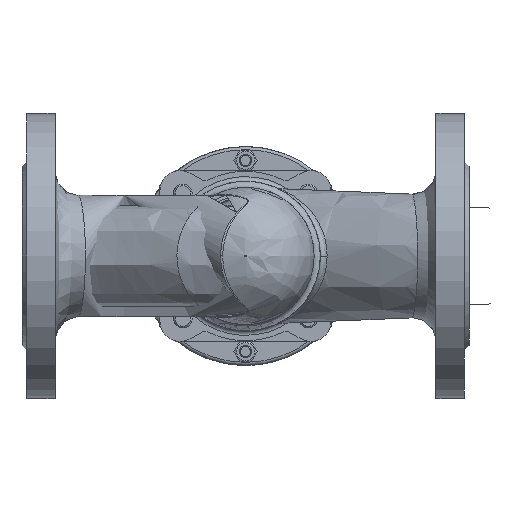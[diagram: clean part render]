
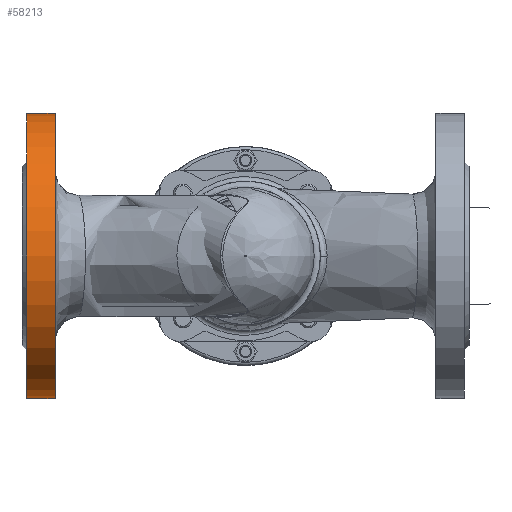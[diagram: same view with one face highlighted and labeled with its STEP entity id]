
A CAD part, front view. The second image highlights one B-rep face of the part: STEP entity #58213.
In plain terms, the highlighted cylindrical face has radius 92.5 mm (diameter 185 mm), a full revolution.
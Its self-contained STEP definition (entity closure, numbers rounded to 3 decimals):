
#58213=ADVANCED_FACE('',(#60590),#60592,.T.);
#60590=FACE_OUTER_BOUND('',#60591,.T.);
#60591=EDGE_LOOP('',(#65902,#65903,#65904,#65905));
#60592=CYLINDRICAL_SURFACE('',#60593,92.5);
#60593=AXIS2_PLACEMENT_3D('',#60594,#60595,#60596);
#60594=CARTESIAN_POINT('',(21.5,92.576,-92.5));
#60595=DIRECTION('',(-1.,0.,0.));
#60596=DIRECTION('',(0.,0.,-1.));
#65902=ORIENTED_EDGE('',*,*,#66472,.T.);
#65903=ORIENTED_EDGE('',*,*,#66473,.T.);
#65904=ORIENTED_EDGE('',*,*,#66474,.F.);
#65905=ORIENTED_EDGE('',*,*,#66473,.F.);
#66472=EDGE_CURVE('',#66822,#66822,#66823,.T.);
#66473=EDGE_CURVE('',#66822,#66824,#66825,.T.);
#66474=EDGE_CURVE('',#66824,#66824,#66826,.T.);
#66822=VERTEX_POINT('',#68141);
#66823=CIRCLE('',#68142,92.5);
#66824=VERTEX_POINT('',#68146);
#66825=LINE('',#68147,#68148);
#66826=CIRCLE('',#68150,92.5);
#68141=CARTESIAN_POINT('',(21.5,92.576,-185.));
#68142=AXIS2_PLACEMENT_3D('',#68143,#68144,#68145);
#68143=CARTESIAN_POINT('',(21.5,92.576,-92.5));
#68144=DIRECTION('',(-1.,0.,0.));
#68145=DIRECTION('',(0.,0.,1.));
#68146=CARTESIAN_POINT('',(3.,92.576,-185.));
#68147=CARTESIAN_POINT('',(21.5,92.576,-185.));
#68148=VECTOR('',#68149,1.);
#68149=DIRECTION('',(-1.,0.,0.));
#68150=AXIS2_PLACEMENT_3D('',#68151,#68152,#68153);
#68151=CARTESIAN_POINT('',(3.,92.576,-92.5));
#68152=DIRECTION('',(-1.,0.,0.));
#68153=DIRECTION('',(0.,0.,-1.));
